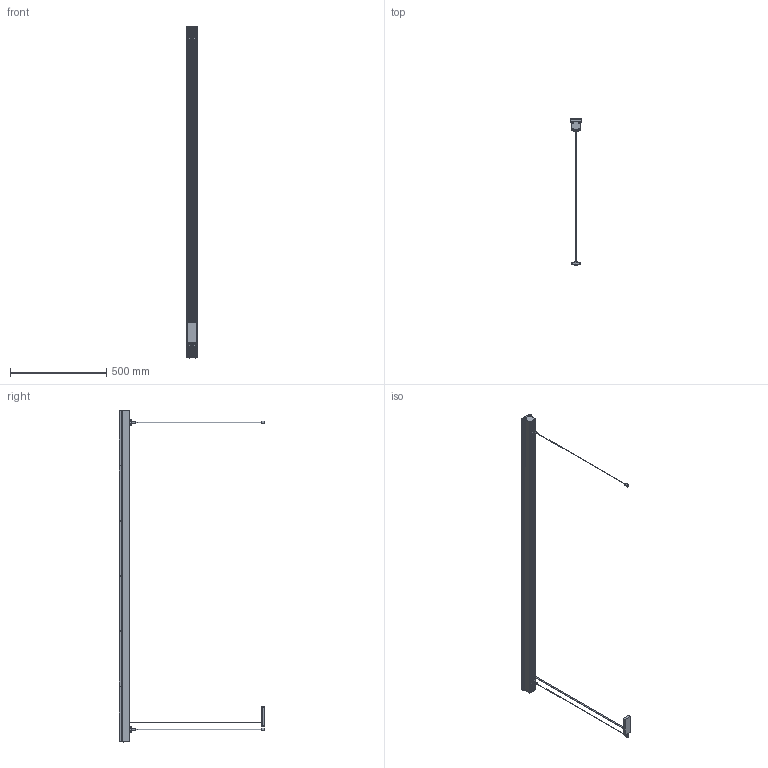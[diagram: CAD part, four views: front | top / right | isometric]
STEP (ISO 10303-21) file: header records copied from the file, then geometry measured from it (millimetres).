
FILE_DESCRIPTION (( 'STEP AP214' ), '1' );
FILE_NAME ('Pixel C 17.STEP', '2017-10-10T10:04:20', ( 'tecnica2' ), ( 'Microsoft' ), 'SwSTEP 2.0', 'SolidWorks 2016', '' );
FILE_SCHEMA (( 'AUTOMOTIVE_DESIGN' ));
Length unit declared in the file: millimetre
Products named in the file (8): kit colgante Pixel-BIM; TT 65 T 3X6; Tapa-BIM_definitiva; Perfil DRIVER-BIM_X6(L:1722mm); lente-BIM; Perfil LED-BIM_X6(L:1722); Pixel C 17; kit luz Pixel-BIM
Assembly tree (17 placements, depth 2):
  Pixel C 17
    Perfil LED-BIM_X6(L:1722)
    lente-BIM  x6
    Perfil DRIVER-BIM_X6(L:1722mm)
    Tapa-BIM_definitiva  x2
    TT 65 T 3X6  x4
    kit colgante Pixel-BIM  x2
    kit luz Pixel-BIM
Bounding box: 62 x 756.13 x 1726 mm (x, y, z)
Volume: 4439989.5 mm3; surface area: 981674.1 mm2
Topology: 27 solids, 27 shells, 1143 faces, 2834 edges, 1728 vertices
Faces by surface type: plane 403, cylinder 384, bspline 212, cone 88, sphere 32, torus 24
Entity records: 19373 total; most frequent: CARTESIAN_POINT 4344, ORIENTED_EDGE 2446, DIRECTION 2273, EDGE_CURVE 1223, AXIS2_PLACEMENT_3D 812, VERTEX_POINT 782, VECTOR 649, LINE 649
